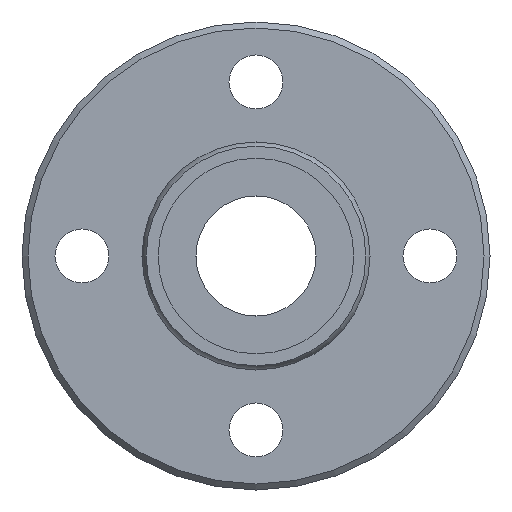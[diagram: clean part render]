
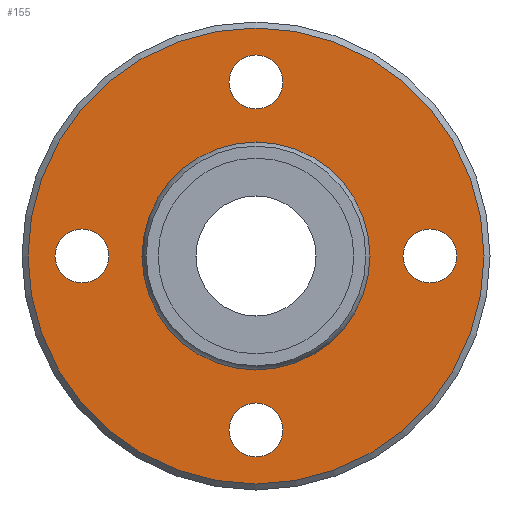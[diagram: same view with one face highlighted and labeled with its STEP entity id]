
A CAD part, left-side view. The second image highlights one B-rep face of the part: STEP entity #155.
In plain terms, the highlighted planar face has unit normal (-1, 0, 0).
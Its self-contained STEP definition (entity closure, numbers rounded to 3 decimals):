
#60=CARTESIAN_POINT('',(6.,0.,19.0));
#61=VERTEX_POINT('',#60);
#62=CARTESIAN_POINT('',(6.,0.0,0.0));
#63=DIRECTION('',(1.0,0.0,0.0));
#64=DIRECTION('',(0.0,0.0,-1.0));
#65=AXIS2_PLACEMENT_3D('',#62,#63,#64);
#66=CIRCLE('',#65,19.0);
#67=EDGE_CURVE('',#61,#61,#66,.T.);
#92=CARTESIAN_POINT('',(6.,0.0,14.393));
#93=DIRECTION('',(-1.0,0.0,0.0));
#94=DIRECTION('',(0.0,0.0,1.0));
#95=AXIS2_PLACEMENT_3D('',#92,#93,#94);
#96=PLANE('',#95);
#97=ORIENTED_EDGE('',*,*,#67,.F.);
#98=EDGE_LOOP('',(#97));
#99=FACE_OUTER_BOUND('',#98,.T.);
#100=CARTESIAN_POINT('',(6.,0.0,9.286));
#101=VERTEX_POINT('',#100);
#102=CARTESIAN_POINT('',(6.,0.0,0.0));
#103=DIRECTION('',(-1.0,0.0,0.0));
#104=DIRECTION('',(0.0,0.0,1.0));
#105=AXIS2_PLACEMENT_3D('',#102,#103,#104);
#106=CIRCLE('',#105,9.286);
#107=EDGE_CURVE('',#101,#101,#106,.T.);
#108=ORIENTED_EDGE('',*,*,#107,.F.);
#109=EDGE_LOOP('',(#108));
#110=FACE_BOUND('',#109,.T.);
#111=CARTESIAN_POINT('',(6.,12.25,0.));
#112=VERTEX_POINT('',#111);
#113=CARTESIAN_POINT('',(6.,14.5,0.));
#114=DIRECTION('',(1.0,0.0,0.0));
#115=DIRECTION('',(0.0,1.0,0.0));
#116=AXIS2_PLACEMENT_3D('',#113,#114,#115);
#117=CIRCLE('',#116,2.25);
#118=EDGE_CURVE('',#112,#112,#117,.T.);
#119=ORIENTED_EDGE('',*,*,#118,.T.);
#120=EDGE_LOOP('',(#119));
#121=FACE_BOUND('',#120,.T.);
#122=CARTESIAN_POINT('',(6.,-16.75,0.));
#123=VERTEX_POINT('',#122);
#124=CARTESIAN_POINT('',(6.,-14.5,0.0));
#125=DIRECTION('',(1.0,0.0,0.0));
#126=DIRECTION('',(0.0,1.0,0.0));
#127=AXIS2_PLACEMENT_3D('',#124,#125,#126);
#128=CIRCLE('',#127,2.25);
#129=EDGE_CURVE('',#123,#123,#128,.T.);
#130=ORIENTED_EDGE('',*,*,#129,.T.);
#131=EDGE_LOOP('',(#130));
#132=FACE_BOUND('',#131,.T.);
#133=CARTESIAN_POINT('',(6.,-2.25,14.5));
#134=VERTEX_POINT('',#133);
#135=CARTESIAN_POINT('',(6.,0.,14.5));
#136=DIRECTION('',(1.0,0.0,0.0));
#137=DIRECTION('',(0.0,1.0,0.0));
#138=AXIS2_PLACEMENT_3D('',#135,#136,#137);
#139=CIRCLE('',#138,2.25);
#140=EDGE_CURVE('',#134,#134,#139,.T.);
#141=ORIENTED_EDGE('',*,*,#140,.T.);
#142=EDGE_LOOP('',(#141));
#143=FACE_BOUND('',#142,.T.);
#144=CARTESIAN_POINT('',(6.,-2.25,-14.5));
#145=VERTEX_POINT('',#144);
#146=CARTESIAN_POINT('',(6.,0.,-14.5));
#147=DIRECTION('',(1.0,0.0,0.0));
#148=DIRECTION('',(0.0,1.0,0.0));
#149=AXIS2_PLACEMENT_3D('',#146,#147,#148);
#150=CIRCLE('',#149,2.25);
#151=EDGE_CURVE('',#145,#145,#150,.T.);
#152=ORIENTED_EDGE('',*,*,#151,.T.);
#153=EDGE_LOOP('',(#152));
#154=FACE_BOUND('',#153,.T.);
#155=ADVANCED_FACE('',(#99,#110,#121,#132,#143,#154),#96,.T.);
